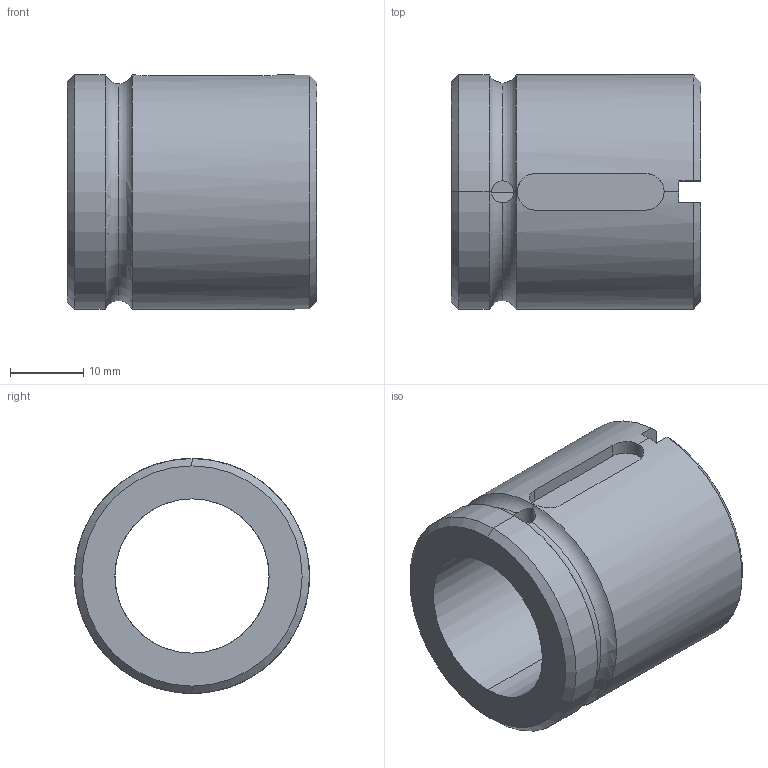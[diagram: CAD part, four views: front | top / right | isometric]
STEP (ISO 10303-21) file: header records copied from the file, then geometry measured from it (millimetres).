
FILE_DESCRIPTION (( 'STEP AP214' ), '1' );
FILE_NAME ('KGM-N 2005.STEP', '2021-01-19T03:08:05', ( 'user' ), ( 'datathink' ), 'SwSTEP 2.0', 'SolidWorks 2013', '' );
FILE_SCHEMA (( 'AUTOMOTIVE_DESIGN' ));
Length unit declared in the file: millimetre
Products named in the file (1): KGM-N 2005
Bounding box: 34 x 32 x 32 mm (x, y, z)
Volume: 14849.7 mm3; surface area: 6675.8 mm2
Topology: 1 solids, 1 shells, 31 faces, 84 edges, 52 vertices
Faces by surface type: plane 12, cylinder 11, torus 4, cone 4
Entity records: 1167 total; most frequent: CARTESIAN_POINT 346, ORIENTED_EDGE 168, DIRECTION 167, EDGE_CURVE 84, AXIS2_PLACEMENT_3D 65, VERTEX_POINT 52, VECTOR 37, LINE 37
